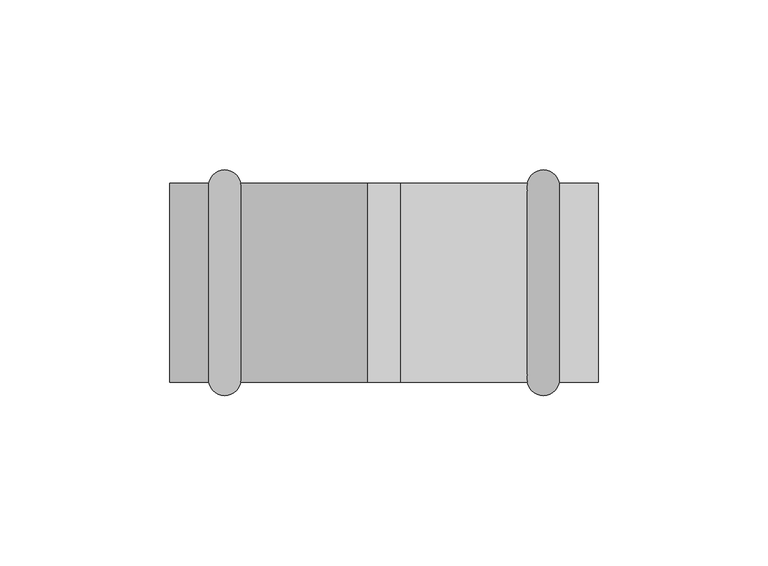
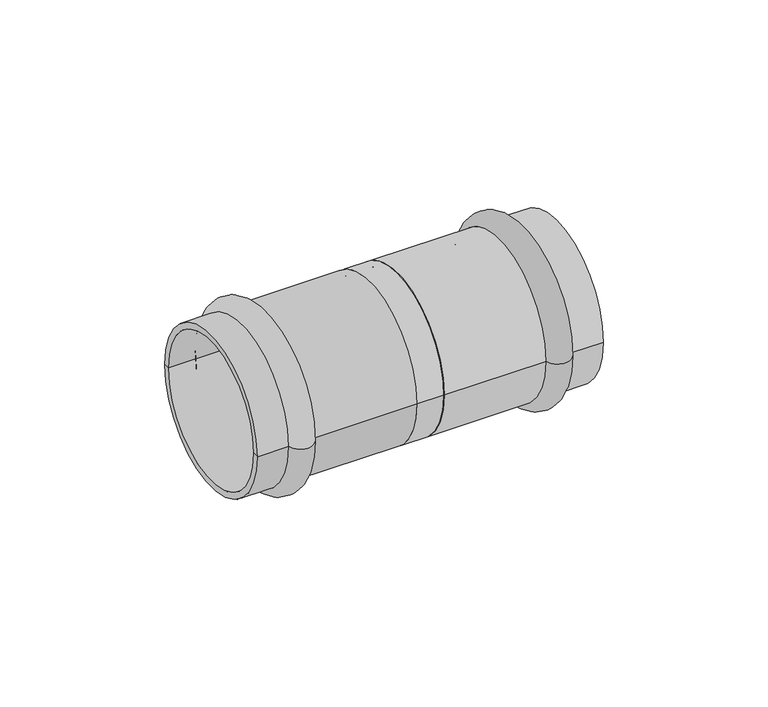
"""IFC4 building model written with IfcOpenShell, lengths in millimetres: pipe fitting geometry, VALTEC_VTi.904.I_Удлинитель_Нержавеющая сталь : VTi.904.I."""

from ifc_helpers import new_model, si_unit, point, frame, origin, origin_2d, place, context, project, spatial, polyline, circle_curve, ellipse_curve, trimmed, segment, composite_curve, outline, extrude, source, transform, mapped, element, save
from ifc_brep_helpers import plane_surface, cylinder_surface, revolved_surface, advanced_brep


def pipe_fitting_1ce34f4c(model_context):
    return source(origin(), model_context, "Body", "SolidModel", [
        advanced_brep(
        [(51.6148701, -29.3, 0.0), (42.1851299, -29.3, 0.0), (42.1851299, 29.3, 0.0), (51.6148701, 29.3, 0.0), (63.0, -29.3, 0.0), (63.0, 29.3, 0.0), (63.0, -27.0, 0.0), (63.0, 27.0, 0.0), (5.0, -27.0, 0.0), (5.0, 27.0, 0.0), (5.0, -29.3, 0.0), (5.0, 29.3, 0.0)],
        [
            (0, 1, circle_curve(frame((46.9, -28.4, 0.0), z_axis=(0.0, 0.0, -1.0), x_axis=(-1.0, 0.0, 0.0)), 4.8)),
            (1, 2, circle_curve(frame((42.1851299, 0.0, 0.0), z_axis=(1.0, 0.0, 0.0), x_axis=(0.0, 1.0, 0.0)), 29.3)),
            (2, 3, circle_curve(frame((46.9, 28.4, 0.0), z_axis=(0.0, 0.0, -1.0), x_axis=(-1.0, 0.0, 0.0)), 4.8)),
            (3, 0, circle_curve(frame((51.6148701, 0.0, 0.0), z_axis=(-1.0, 0.0, 0.0), x_axis=(0.0, 1.0, 0.0)), 29.3)),
            (2, 1, circle_curve(frame((42.1851299, 0.0, 0.0), z_axis=(1.0, 0.0, 0.0), x_axis=(0.0, 1.0, 0.0)), 29.3)),
            (0, 3, circle_curve(frame((51.6148701, 0.0, 0.0), z_axis=(-1.0, 0.0, 0.0), x_axis=(0.0, 1.0, 0.0)), 29.3)),
            (4, 0),
            (3, 5),
            (5, 4, circle_curve(frame((63.0, 0.0, 0.0), z_axis=(-1.0, 0.0, 0.0), x_axis=(0.0, 1.0, 0.0)), 29.3)),
            (4, 5, circle_curve(frame((63.0, 0.0, 0.0), z_axis=(-1.0, 0.0, 0.0), x_axis=(0.0, 1.0, 0.0)), 29.3)),
            (6, 4),
            (5, 7),
            (7, 6, circle_curve(frame((63.0, 0.0, 0.0), z_axis=(-1.0, 0.0, 0.0), x_axis=(0.0, 1.0, 0.0)), 27.0)),
            (6, 7, circle_curve(frame((63.0, 0.0, 0.0), z_axis=(-1.0, 0.0, 0.0), x_axis=(0.0, 1.0, 0.0)), 27.0)),
            (8, 6),
            (7, 9),
            (9, 8, circle_curve(frame((5.0, 0.0, 0.0), z_axis=(-1.0, 0.0, 0.0), x_axis=(0.0, 1.0, 0.0)), 27.0)),
            (8, 9, circle_curve(frame((5.0, 0.0, 0.0), z_axis=(-1.0, 0.0, 0.0), x_axis=(0.0, 1.0, 0.0)), 27.0)),
            (10, 8),
            (9, 11),
            (11, 10, circle_curve(frame((5.0, 0.0, 0.0), z_axis=(-1.0, 0.0, 0.0), x_axis=(0.0, 1.0, 0.0)), 29.3)),
            (10, 11, circle_curve(frame((5.0, 0.0, 0.0), z_axis=(-1.0, 0.0, 0.0), x_axis=(0.0, 1.0, 0.0)), 29.3)),
            (1, 10),
            (11, 2),
        ],
        [
            revolved_surface(trimmed(ellipse_curve(frame((46.9, 28.4, 0.0), z_axis=(0.0, 0.0, -1.0), x_axis=(-1.0, 0.0, 0.0)), 4.8, 4.8), [point((42.1851299, 29.3, 0.0))], [point((51.6148701, 29.3, 0.0))], True, "CARTESIAN"), (66.5364426, 0.0, 0.0), (1.0, 0.0, 0.0)),
            cylinder_surface(frame((66.5364426, 0.0, 0.0), z_axis=(1.0, 0.0, 0.0), x_axis=(0.0, 1.0, 0.0)), 29.3),
            plane_surface(frame((63.0, 0.0, 0.0), z_axis=(1.0, 0.0, 0.0), x_axis=(0.0, 1.0, 0.0))),
            revolved_surface(polyline([(63.0, 27.0, 0.0), (5.0, 27.0, 0.0)]), (66.5364426, 0.0, 0.0), (1.0, 0.0, 0.0)),
            plane_surface(frame((5.0, 0.0, 0.0), z_axis=(-1.0, 0.0, 0.0), x_axis=(0.0, 1.0, 0.0))),
        ],
        [
            (0, [[1, 2, 3, 4]]),
            (0, [[-3, 5, -1, 6]]),
            (1, [[7, -4, 8, 9]]),
            (1, [[-8, -6, -7, 10]]),
            (2, [[11, -9, 12, 13]]),
            (2, [[-12, -10, -11, 14]]),
            (3, [[15, -13, 16, 17]]),
            (3, [[-16, -14, -15, 18]]),
            (4, [[19, -17, 20, 21]]),
            (4, [[-20, -18, -19, 22]]),
            (1, [[23, -21, 24, -2]]),
            (1, [[-24, -22, -23, -5]]),
        ],
    ),
        advanced_brep(
        [(-51.6148701, -29.3, 0.0), (-51.6148701, 29.3, 0.0), (-42.1851299, 29.3, 0.0), (-42.1851299, -29.3, 0.0), (-63.0, -29.3, 0.0), (-63.0, 29.3, 0.0), (-63.0, -27.0, 0.0), (-63.0, 27.0, 0.0), (-5.0, -27.0, 0.0), (-5.0, 27.0, 0.0), (-5.0, -29.3, 0.0), (-5.0, 29.3, 0.0)],
        [
            (0, 1, circle_curve(frame((-51.6148701, 0.0, 0.0), z_axis=(1.0, 0.0, 0.0), x_axis=(0.0, 1.0, 0.0)), 29.3)),
            (1, 2, circle_curve(frame((-46.9, 28.4, 0.0), z_axis=(0.0, 0.0, -1.0), x_axis=(1.0, 0.0, 0.0)), 4.8)),
            (2, 3, circle_curve(frame((-42.1851299, 0.0, 0.0), z_axis=(-1.0, 0.0, 0.0), x_axis=(0.0, 1.0, 0.0)), 29.3)),
            (3, 0, circle_curve(frame((-46.9, -28.4, 0.0), z_axis=(0.0, 0.0, -1.0), x_axis=(1.0, 0.0, 0.0)), 4.8)),
            (1, 0, circle_curve(frame((-51.6148701, 0.0, 0.0), z_axis=(1.0, 0.0, 0.0), x_axis=(0.0, 1.0, 0.0)), 29.3)),
            (3, 2, circle_curve(frame((-42.1851299, 0.0, 0.0), z_axis=(-1.0, 0.0, 0.0), x_axis=(0.0, 1.0, 0.0)), 29.3)),
            (4, 5, circle_curve(frame((-63.0, 0.0, 0.0), z_axis=(1.0, 0.0, 0.0), x_axis=(0.0, 1.0, 0.0)), 29.3)),
            (5, 1),
            (0, 4),
            (5, 4, circle_curve(frame((-63.0, 0.0, 0.0), z_axis=(1.0, 0.0, 0.0), x_axis=(0.0, 1.0, 0.0)), 29.3)),
            (6, 7, circle_curve(frame((-63.0, 0.0, 0.0), z_axis=(1.0, 0.0, 0.0), x_axis=(0.0, 1.0, 0.0)), 27.0)),
            (7, 5),
            (4, 6),
            (7, 6, circle_curve(frame((-63.0, 0.0, 0.0), z_axis=(1.0, 0.0, 0.0), x_axis=(0.0, 1.0, 0.0)), 27.0)),
            (8, 9, circle_curve(frame((-5.0, 0.0, 0.0), z_axis=(1.0, 0.0, 0.0), x_axis=(0.0, 1.0, 0.0)), 27.0)),
            (9, 7),
            (6, 8),
            (9, 8, circle_curve(frame((-5.0, 0.0, 0.0), z_axis=(1.0, 0.0, 0.0), x_axis=(0.0, 1.0, 0.0)), 27.0)),
            (10, 11, circle_curve(frame((-5.0, 0.0, 0.0), z_axis=(1.0, 0.0, 0.0), x_axis=(0.0, 1.0, 0.0)), 29.3)),
            (11, 9),
            (8, 10),
            (11, 10, circle_curve(frame((-5.0, 0.0, 0.0), z_axis=(1.0, 0.0, 0.0), x_axis=(0.0, 1.0, 0.0)), 29.3)),
            (2, 11),
            (10, 3),
        ],
        [
            revolved_surface(trimmed(ellipse_curve(frame((-46.9, 28.4, 0.0), z_axis=(0.0, 0.0, 1.0), x_axis=(1.0, 0.0, 0.0)), 4.8, 4.8), [point((-42.1851299, 29.3, 0.0))], [point((-51.6148701, 29.3, 0.0))], True, "CARTESIAN"), (-66.5364426, 0.0, 0.0), (-1.0, 0.0, 0.0)),
            cylinder_surface(frame((-66.5364426, 0.0, 0.0), z_axis=(-1.0, 0.0, 0.0), x_axis=(0.0, 1.0, 0.0)), 29.3),
            plane_surface(frame((-63.0, 0.0, 0.0), z_axis=(-1.0, 0.0, 0.0), x_axis=(0.0, 1.0, 0.0))),
            revolved_surface(polyline([(-63.0, 27.0, 0.0), (-5.0, 27.0, 0.0)]), (-66.5364426, 0.0, 0.0), (-1.0, 0.0, 0.0)),
            plane_surface(frame((-5.0, 0.0, 0.0), z_axis=(1.0, 0.0, 0.0), x_axis=(0.0, 1.0, 0.0))),
        ],
        [
            (0, [[1, 2, 3, 4]]),
            (0, [[5, -4, 6, -2]]),
            (1, [[7, 8, -1, 9]]),
            (1, [[10, -9, -5, -8]]),
            (2, [[11, 12, -7, 13]]),
            (2, [[14, -13, -10, -12]]),
            (3, [[15, 16, -11, 17]]),
            (3, [[18, -17, -14, -16]]),
            (4, [[19, 20, -15, 21]]),
            (4, [[22, -21, -18, -20]]),
            (1, [[-3, 23, -19, 24]]),
            (1, [[-6, -24, -22, -23]]),
        ],
    ),
        extrude(outline(composite_curve([segment(trimmed(circle_curve(origin_2d(), 29.3), [point((-29.3, 0.0))], [point((29.3, 0.0))], False, "CARTESIAN"), True, "CONTINUOUS"), segment(trimmed(circle_curve(origin_2d(), 29.3), [point((29.3, 0.0))], [point((-29.3, 0.0))], False, "CARTESIAN"), True, "CONTINUOUS")], self_intersect=False), holes=[composite_curve([segment(trimmed(circle_curve(origin_2d(), 27.0), [point((-27.0, 0.0))], [point((27.0, 0.0))], True, "CARTESIAN"), True, "CONTINUOUS"), segment(trimmed(circle_curve(origin_2d(), 27.0), [point((27.0, 0.0))], [point((-27.0, 0.0))], True, "CARTESIAN"), True, "CONTINUOUS")], self_intersect=False)]), frame((-5.0, 0.0, 0.0), z_axis=(1.0, 0.0, 0.0), x_axis=(0.0, 1.0, 0.0)), (0.0, 0.0, 1.0), 10.0),
    ])


if __name__ == "__main__":
    model = new_model("IFC4")
    model_context = context("Model", 3, world=origin())
    ifc_project = project(units=[si_unit("LENGTHUNIT", "METRE", prefix="MILLI")], contexts=[model_context])
    site = spatial("IfcSite", under=ifc_project)
    building = spatial("IfcBuilding", under=site)
    placement = place(None, origin())
    pipe_fitting_shape = pipe_fitting_1ce34f4c(model_context)
    element("IfcPipeFitting", 1, ObjectType="VALTEC_VTi.904.I_Удлинитель_Нержавеющая сталь : VTi.904.I", at=placement, inside=building, context=model_context, shape_type="MappedRepresentation", body=[
        mapped(pipe_fitting_shape, transform((0.0, 0.0, 0.0), x_axis=(1.0, 0.0, 0.0), y_axis=(0.0, 1.0, 0.0), z_axis=(0.0, 0.0, 1.0))),
    ])
    save(model, "model.ifc")
